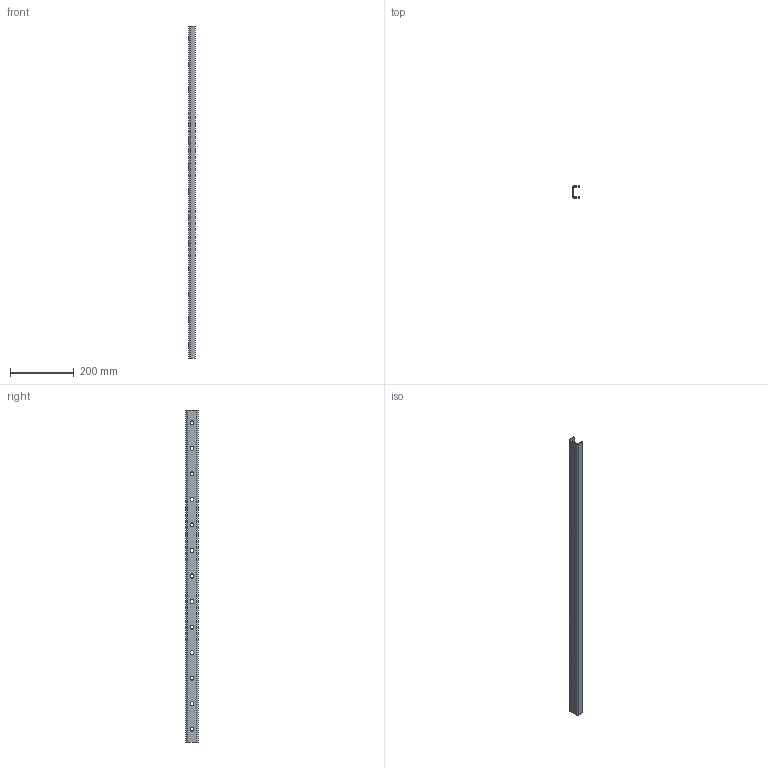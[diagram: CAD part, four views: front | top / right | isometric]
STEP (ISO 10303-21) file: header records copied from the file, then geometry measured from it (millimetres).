
FILE_DESCRIPTION (( 'STEP AP203' ), '1' );
FILE_NAME ('L1971.40U-1040.step', '2026-01-14T16:03:46', ( '' ), ( '' ), 'SwSTEP 2.0', 'SolidWorks 2019', '' );
FILE_SCHEMA (( 'CONFIG_CONTROL_DESIGN' ));
Length unit declared in the file: millimetre
Products named in the file (1): L1971.40U-1040
Bounding box: 21 x 38.5 x 1040 mm (x, y, z)
Volume: 216502.9 mm3; surface area: 152413.8 mm2
Topology: 1 solids, 1 shells, 79 faces, 231 edges, 154 vertices
Faces by surface type: cylinder 43, plane 36
Entity records: 2780 total; most frequent: DIRECTION 477, CARTESIAN_POINT 465, ORIENTED_EDGE 462, EDGE_CURVE 231, AXIS2_PLACEMENT_3D 166, VERTEX_POINT 154, VECTOR 145, LINE 145
